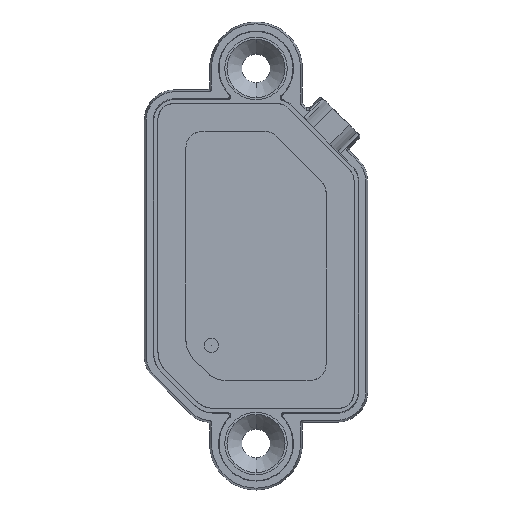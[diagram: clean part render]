
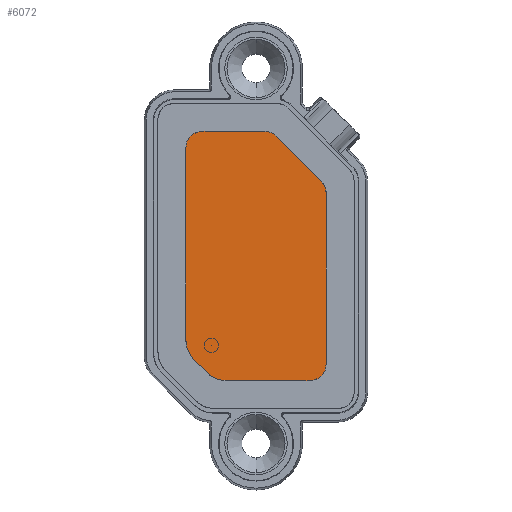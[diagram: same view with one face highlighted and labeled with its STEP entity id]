
A CAD part, left-side view. The second image highlights one B-rep face of the part: STEP entity #6072.
In plain terms, the highlighted planar face has unit normal (-1, 0, 0).
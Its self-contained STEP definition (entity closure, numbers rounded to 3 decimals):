
#68 = CARTESIAN_POINT ( 'NONE',  ( -5.8, 6.963, -11.561 ) ) ;
#147 = DIRECTION ( 'NONE',  ( 0., 0., 1. ) ) ;
#204 = EDGE_CURVE ( 'NONE', #3316, #7366, #260, .T. ) ;
#260 = LINE ( 'NONE', #348, #8698 ) ;
#261 = DIRECTION ( 'NONE',  ( 0., 0., 1. ) ) ;
#285 = DIRECTION ( 'NONE',  ( 1., 0., 0. ) ) ;
#348 = CARTESIAN_POINT ( 'NONE',  ( -5.8, 0., -13.943 ) ) ;
#476 = EDGE_CURVE ( 'NONE', #5475, #2497, #3741, .T. ) ;
#627 = LINE ( 'NONE', #6763, #8114 ) ;
#692 = ORIENTED_EDGE ( 'NONE', *, *, #204, .T. ) ;
#709 = CARTESIAN_POINT ( 'NONE',  ( -5.8, -7.318, 8.368 ) ) ;
#744 = DIRECTION ( 'NONE',  ( 0., 0., 1. ) ) ;
#886 = EDGE_CURVE ( 'NONE', #8667, #3316, #2062, .T. ) ;
#933 = ORIENTED_EDGE ( 'NONE', *, *, #886, .T. ) ;
#996 = CARTESIAN_POINT ( 'NONE',  ( -5.8, -6.05, -12.15 ) ) ;
#1067 = EDGE_CURVE ( 'NONE', #2630, #2087, #1782, .T. ) ;
#1378 = ORIENTED_EDGE ( 'NONE', *, *, #8083, .F. ) ;
#1388 = LINE ( 'NONE', #2108, #4276 ) ;
#1417 = ORIENTED_EDGE ( 'NONE', *, *, #4321, .T. ) ;
#1541 = AXIS2_PLACEMENT_3D ( 'NONE', #2330, #285, #2458 ) ;
#1591 = DIRECTION ( 'NONE',  ( 0., 0.707, 0.707 ) ) ;
#1782 = LINE ( 'NONE', #4464, #5092 ) ;
#1948 = AXIS2_PLACEMENT_3D ( 'NONE', #3287, #8816, #5368 ) ;
#1976 = EDGE_CURVE ( 'NONE', #2601, #4746, #1388, .T. ) ;
#2062 =( BOUNDED_CURVE ( )  B_SPLINE_CURVE ( 3, ( #8543, #7817, #2286, #3608 ),
 .UNSPECIFIED., .F., .F. ) 
 B_SPLINE_CURVE_WITH_KNOTS ( ( 4, 4 ),
 ( 4.712, 5.498 ),
 .UNSPECIFIED. ) 
 CURVE ( )  GEOMETRIC_REPRESENTATION_ITEM ( )  RATIONAL_B_SPLINE_CURVE ( ( 1., 0.949, 0.949, 1. ) ) 
 REPRESENTATION_ITEM ( '' )  );
#2077 = DIRECTION ( 'NONE',  ( 0., 1., 0. ) ) ;
#2087 = VERTEX_POINT ( 'NONE', #3059 ) ;
#2108 = CARTESIAN_POINT ( 'NONE',  ( -5.8, -7.843, 0. ) ) ;
#2205 = ORIENTED_EDGE ( 'NONE', *, *, #4978, .T. ) ;
#2245 = CARTESIAN_POINT ( 'NONE',  ( -5.8, -1., 12.15 ) ) ;
#2286 = CARTESIAN_POINT ( 'NONE',  ( -5.8, 4.144, -13.943 ) ) ;
#2330 = CARTESIAN_POINT ( 'NONE',  ( -5.8, 9.137, -15.237 ) ) ;
#2458 = DIRECTION ( 'NONE',  ( 0., 0., -1. ) ) ;
#2497 = VERTEX_POINT ( 'NONE', #8069 ) ;
#2533 = ORIENTED_EDGE ( 'NONE', *, *, #6646, .T. ) ;
#2601 = VERTEX_POINT ( 'NONE', #8294 ) ;
#2630 = VERTEX_POINT ( 'NONE', #709 ) ;
#2659 = EDGE_CURVE ( 'NONE', #8459, #6150, #627, .T. ) ;
#2675 = CARTESIAN_POINT ( 'NONE',  ( -5.8, -6.05, 7.1 ) ) ;
#2676 = VERTEX_POINT ( 'NONE', #4255 ) ;
#2770 = LINE ( 'NONE', #8215, #6771 ) ;
#3059 = CARTESIAN_POINT ( 'NONE',  ( -5.8, -2.268, 13.418 ) ) ;
#3061 = PLANE ( 'NONE',  #1541 ) ;
#3082 = DIRECTION ( 'NONE',  ( -1., 0., 0. ) ) ;
#3175 = ORIENTED_EDGE ( 'NONE', *, *, #1976, .T. ) ;
#3287 = CARTESIAN_POINT ( 'NONE',  ( -5.8, 6.05, 12.15 ) ) ;
#3316 = VERTEX_POINT ( 'NONE', #6111 ) ;
#3355 = CARTESIAN_POINT ( 'NONE',  ( -5.8, 7.843, -10.244 ) ) ;
#3535 = ORIENTED_EDGE ( 'NONE', *, *, #2659, .T. ) ;
#3608 = CARTESIAN_POINT ( 'NONE',  ( -5.8, 3.336, -13.943 ) ) ;
#3640 = LINE ( 'NONE', #4454, #4371 ) ;
#3660 = DIRECTION ( 'NONE',  ( -1., 0., 0. ) ) ;
#3741 =( BOUNDED_CURVE ( )  B_SPLINE_CURVE ( 3, ( #5577, #3355, #6304, #68 ),
 .UNSPECIFIED., .F., .F. ) 
 B_SPLINE_CURVE_WITH_KNOTS ( ( 4, 4 ),
 ( 3.926, 4.712 ),
 .UNSPECIFIED. ) 
 CURVE ( )  GEOMETRIC_REPRESENTATION_ITEM ( )  RATIONAL_B_SPLINE_CURVE ( ( 1., 0.949, 0.949, 1. ) ) 
 REPRESENTATION_ITEM ( '' )  );
#4092 = CARTESIAN_POINT ( 'NONE',  ( -5.8, -7.843, 7.1 ) ) ;
#4255 = CARTESIAN_POINT ( 'NONE',  ( -5.8, 7.843, 12.15 ) ) ;
#4276 = VECTOR ( 'NONE', #147, 1000. ) ;
#4321 = EDGE_CURVE ( 'NONE', #6150, #2676, #5863, .T. ) ;
#4371 = VECTOR ( 'NONE', #1591, 1000. ) ;
#4454 = CARTESIAN_POINT ( 'NONE',  ( -5.8, 4.574, -13.95 ) ) ;
#4464 = CARTESIAN_POINT ( 'NONE',  ( -5.8, -7.843, 7.843 ) ) ;
#4746 = VERTEX_POINT ( 'NONE', #4092 ) ;
#4752 = EDGE_CURVE ( 'NONE', #2676, #5475, #2770, .T. ) ;
#4792 = CIRCLE ( 'NONE', #8700, 1.793 ) ;
#4978 = EDGE_CURVE ( 'NONE', #7366, #2601, #7631, .T. ) ;
#5092 = VECTOR ( 'NONE', #8086, 1000. ) ;
#5107 = CARTESIAN_POINT ( 'NONE',  ( -5.8, 6.05, 13.943 ) ) ;
#5315 = CARTESIAN_POINT ( 'NONE',  ( -5.8, 5.461, -13.063 ) ) ;
#5368 = DIRECTION ( 'NONE',  ( 0., 0., 1. ) ) ;
#5465 = AXIS2_PLACEMENT_3D ( 'NONE', #996, #3082, #261 ) ;
#5475 = VERTEX_POINT ( 'NONE', #6708 ) ;
#5577 = CARTESIAN_POINT ( 'NONE',  ( -5.8, 7.843, -9.436 ) ) ;
#5863 = CIRCLE ( 'NONE', #1948, 1.793 ) ;
#6001 = EDGE_CURVE ( 'NONE', #2087, #8459, #8262, .T. ) ;
#6072 = ADVANCED_FACE ( 'NONE', ( #8679 ), #3061, .F. ) ;
#6111 = CARTESIAN_POINT ( 'NONE',  ( -5.8, 3.336, -13.943 ) ) ;
#6140 = EDGE_LOOP ( 'NONE', ( #1378, #933, #692, #2205, #3175, #2533, #8519, #7715, #3535, #1417, #8993, #6255 ) ) ;
#6150 = VERTEX_POINT ( 'NONE', #5107 ) ;
#6255 = ORIENTED_EDGE ( 'NONE', *, *, #476, .T. ) ;
#6304 = CARTESIAN_POINT ( 'NONE',  ( -5.8, 7.534, -10.99 ) ) ;
#6480 = CARTESIAN_POINT ( 'NONE',  ( -5.8, -6.05, -13.943 ) ) ;
#6646 = EDGE_CURVE ( 'NONE', #4746, #2630, #4792, .T. ) ;
#6708 = CARTESIAN_POINT ( 'NONE',  ( -5.8, 7.843, -9.436 ) ) ;
#6763 = CARTESIAN_POINT ( 'NONE',  ( -5.8, 0., 13.943 ) ) ;
#6771 = VECTOR ( 'NONE', #8252, 1000. ) ;
#7285 = CARTESIAN_POINT ( 'NONE',  ( -5.8, -1., 13.943 ) ) ;
#7366 = VERTEX_POINT ( 'NONE', #6480 ) ;
#7631 = CIRCLE ( 'NONE', #5465, 1.793 ) ;
#7715 = ORIENTED_EDGE ( 'NONE', *, *, #6001, .T. ) ;
#7817 = CARTESIAN_POINT ( 'NONE',  ( -5.8, 4.89, -13.634 ) ) ;
#8069 = CARTESIAN_POINT ( 'NONE',  ( -5.8, 6.963, -11.561 ) ) ;
#8083 = EDGE_CURVE ( 'NONE', #8667, #2497, #3640, .T. ) ;
#8086 = DIRECTION ( 'NONE',  ( 0., 0.707, 0.707 ) ) ;
#8114 = VECTOR ( 'NONE', #2077, 1000. ) ;
#8206 = DIRECTION ( 'NONE',  ( 0., 0., 1. ) ) ;
#8215 = CARTESIAN_POINT ( 'NONE',  ( -5.8, 7.843, 0. ) ) ;
#8252 = DIRECTION ( 'NONE',  ( 0., 0., -1. ) ) ;
#8262 = CIRCLE ( 'NONE', #8696, 1.793 ) ;
#8294 = CARTESIAN_POINT ( 'NONE',  ( -5.8, -7.843, -12.15 ) ) ;
#8296 = DIRECTION ( 'NONE',  ( -1., 0., 0. ) ) ;
#8435 = DIRECTION ( 'NONE',  ( 0., -1., 0. ) ) ;
#8459 = VERTEX_POINT ( 'NONE', #7285 ) ;
#8519 = ORIENTED_EDGE ( 'NONE', *, *, #1067, .T. ) ;
#8543 = CARTESIAN_POINT ( 'NONE',  ( -5.8, 5.461, -13.063 ) ) ;
#8667 = VERTEX_POINT ( 'NONE', #5315 ) ;
#8679 = FACE_OUTER_BOUND ( 'NONE', #6140, .T. ) ;
#8696 = AXIS2_PLACEMENT_3D ( 'NONE', #2245, #3660, #744 ) ;
#8698 = VECTOR ( 'NONE', #8435, 1000. ) ;
#8700 = AXIS2_PLACEMENT_3D ( 'NONE', #2675, #8296, #8206 ) ;
#8816 = DIRECTION ( 'NONE',  ( -1., 0., 0. ) ) ;
#8993 = ORIENTED_EDGE ( 'NONE', *, *, #4752, .T. ) ;
